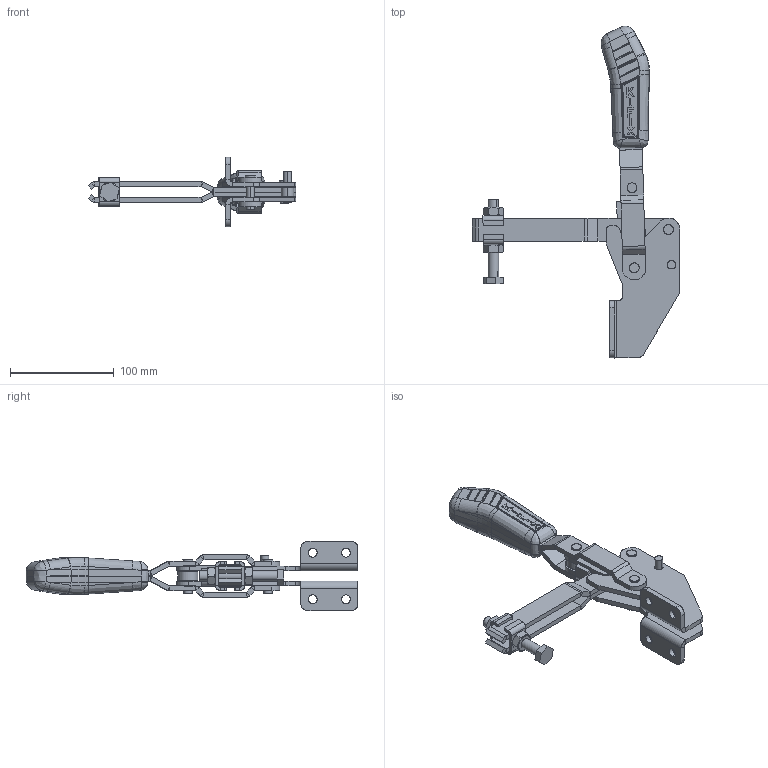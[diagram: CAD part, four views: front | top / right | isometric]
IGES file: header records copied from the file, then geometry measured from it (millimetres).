
Start section: SolidWorks IGES file using analytic representation for surfaces
Global section: file name: C:\Projetos\Grampos\KF-411\KF-411 DB\KF-411 DB.IGS; native system: SolidWorks 2013; preprocessor: SolidWorks 2013; author: Ricardo; date: 140801.094654; units: millimetre
Bounding box: 200.41 x 320.58 x 67 mm (x, y, z)
Surface area: 124620.2 mm2 (no closed solid volume)
Topology: 0 solids, 0 shells, 873 faces, 9184 edges, 9157 vertices
Faces by surface type: bspline 525, revolution 348
